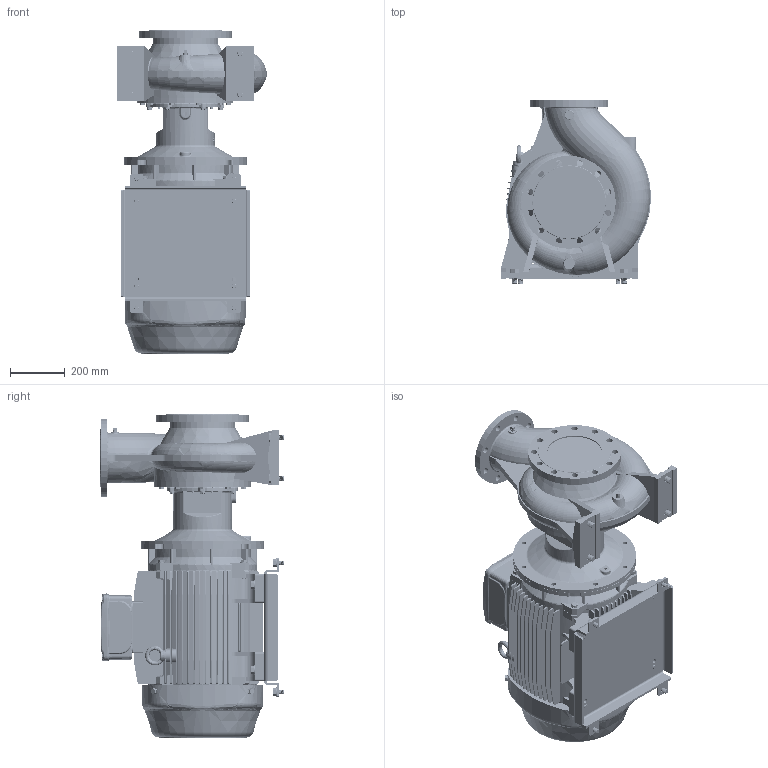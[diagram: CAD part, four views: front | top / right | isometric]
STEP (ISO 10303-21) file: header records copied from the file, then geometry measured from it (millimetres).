
FILE_DESCRIPTION (( 'STEP AP214' ), '1' );
FILE_NAME ('GSD4 150-250_37 & 45_(225SM)_W21.STEP', '2026-07-01T02:41:32', ( '' ), ( '' ), 'SwSTEP 2.0', 'SolidWorks 2024', '' );
FILE_SCHEMA (( 'AUTOMOTIVE_DESIGN' ));
Length unit declared in the file: millimetre
Products named in the file (12): 150-250-225S_M_ﾃﾞﾌｫﾙﾄ; GSD4 150-250_37 & 45_(225SM)_W21; CGS11-5282; Parametric bolt and washer_SFT-A359B; Parametric bolt and washer_SFT-A403B; Parametric bolt_SFT-A351B; Parametric bolt_SFT-A403B; Parametric Flat Washer_M16; Parametric bolt_SFT-A359B; 225S_M4P IE3_W21T_B35; Parametric bolt and washer_SFT-A351B; Parametric Flat Washer_M20
Assembly tree (21 placements, depth 3):
  GSD4 150-250_37 & 45_(225SM)_W21
    150-250-225S_M_ﾃﾞﾌｫﾙﾄ
    225S_M4P IE3_W21T_B35
    CGS11-5282
    Parametric bolt and washer_SFT-A403B  x4
      Parametric bolt_SFT-A403B
      Parametric Flat Washer_M20
    Parametric bolt and washer_SFT-A351B  x4
      Parametric bolt_SFT-A351B
      Parametric Flat Washer_M16
    Parametric bolt and washer_SFT-A359B  x4
      Parametric bolt_SFT-A359B
      Parametric Flat Washer_M16
Bounding box: 549.19 x 673 x 1184.5 mm (x, y, z)
Volume: 152503926.7 mm3; surface area: 5384132 mm2
Topology: 40 solids, 45 shells, 4275 faces, 11244 edges, 7188 vertices
Faces by surface type: plane 1743, cylinder 1495, cone 461, bspline 294, torus 264, sphere 18
Entity records: 178690 total; most frequent: CARTESIAN_POINT 90943, ORIENTED_EDGE 19164, DIRECTION 17419, EDGE_CURVE 9582, AXIS2_PLACEMENT_3D 6338, VERTEX_POINT 6117, VECTOR 4743, LINE 4743
